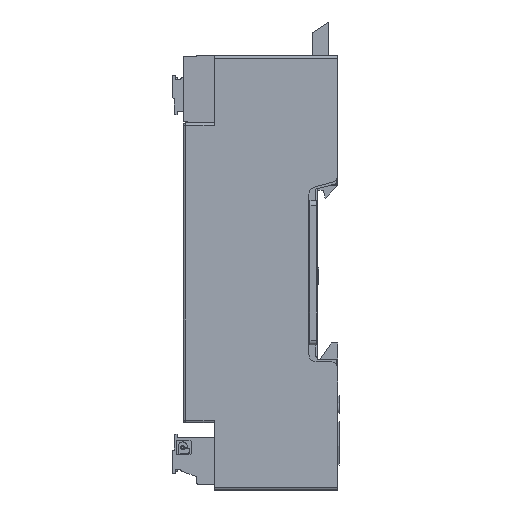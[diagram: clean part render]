
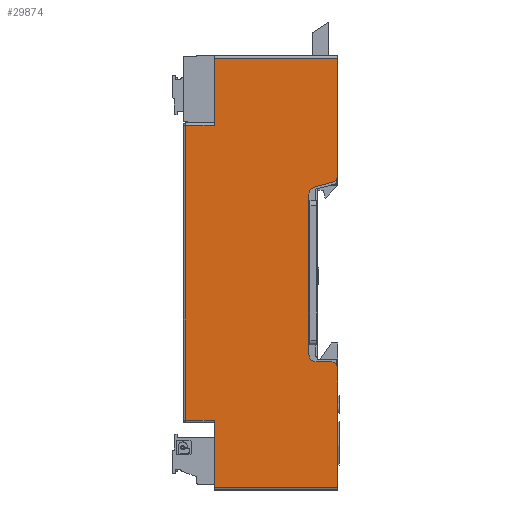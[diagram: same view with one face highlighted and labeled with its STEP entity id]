
A CAD part, left-side view. The second image highlights one B-rep face of the part: STEP entity #29874.
In plain terms, the highlighted planar face has unit normal (-1, 0, 0).
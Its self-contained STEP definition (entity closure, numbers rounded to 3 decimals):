
#12884=LINE('',#181854,#23563);
#12888=LINE('',#181866,#23567);
#12891=LINE('',#181877,#23570);
#12913=LINE('',#181938,#23592);
#12914=LINE('',#181942,#23593);
#12915=LINE('',#181944,#23594);
#12916=LINE('',#181946,#23595);
#12917=LINE('',#181948,#23596);
#12918=LINE('',#181949,#23597);
#12919=LINE('',#181951,#23598);
#12920=LINE('',#181953,#23599);
#12921=LINE('',#181955,#23600);
#23563=VECTOR('',#128653,1.);
#23567=VECTOR('',#128665,1.);
#23570=VECTOR('',#128676,1.);
#23592=VECTOR('',#128736,1.);
#23593=VECTOR('',#128741,1.);
#23594=VECTOR('',#128742,1.);
#23595=VECTOR('',#128743,1.);
#23596=VECTOR('',#128744,1.);
#23597=VECTOR('',#128745,1.);
#23598=VECTOR('',#128746,1.);
#23599=VECTOR('',#128747,1.);
#23600=VECTOR('',#128748,1.);
#29874=ADVANCED_FACE('',(#38926),#33725,.T.);
#33725=PLANE('',#108192);
#38926=FACE_OUTER_BOUND('',#45304,.T.);
#45304=EDGE_LOOP('',(#71187,#71188,#71189,#71190,#71191,#71192,#71193,#71194,
#71195,#71196,#71197,#71198,#71199,#71200,#71201,#71202));
#71187=ORIENTED_EDGE('',*,*,#96453,.F.);
#71188=ORIENTED_EDGE('',*,*,#96454,.F.);
#71189=ORIENTED_EDGE('',*,*,#96455,.F.);
#71190=ORIENTED_EDGE('',*,*,#96456,.F.);
#71191=ORIENTED_EDGE('',*,*,#96404,.T.);
#71192=ORIENTED_EDGE('',*,*,#96410,.F.);
#71193=ORIENTED_EDGE('',*,*,#96412,.T.);
#71194=ORIENTED_EDGE('',*,*,#96416,.F.);
#71195=ORIENTED_EDGE('',*,*,#96418,.T.);
#71196=ORIENTED_EDGE('',*,*,#96421,.T.);
#71197=ORIENTED_EDGE('',*,*,#96425,.T.);
#71198=ORIENTED_EDGE('',*,*,#96457,.F.);
#71199=ORIENTED_EDGE('',*,*,#96458,.F.);
#71200=ORIENTED_EDGE('',*,*,#96459,.F.);
#71201=ORIENTED_EDGE('',*,*,#96460,.F.);
#71202=ORIENTED_EDGE('',*,*,#96451,.F.);
#82768=VERTEX_POINT('',#181842);
#82769=VERTEX_POINT('',#181843);
#82773=VERTEX_POINT('',#181853);
#82775=VERTEX_POINT('',#181858);
#82777=VERTEX_POINT('',#181865);
#82779=VERTEX_POINT('',#181870);
#82780=VERTEX_POINT('',#181875);
#82783=VERTEX_POINT('',#181883);
#82801=VERTEX_POINT('',#181937);
#82802=VERTEX_POINT('',#181939);
#82803=VERTEX_POINT('',#181943);
#82804=VERTEX_POINT('',#181945);
#82805=VERTEX_POINT('',#181947);
#82806=VERTEX_POINT('',#181950);
#82807=VERTEX_POINT('',#181952);
#82808=VERTEX_POINT('',#181954);
#96404=EDGE_CURVE('',#82768,#82769,#102613,.T.);
#96410=EDGE_CURVE('',#82773,#82769,#12884,.T.);
#96412=EDGE_CURVE('',#82773,#82775,#102614,.T.);
#96416=EDGE_CURVE('',#82777,#82775,#12888,.T.);
#96418=EDGE_CURVE('',#82777,#82779,#102615,.T.);
#96421=EDGE_CURVE('',#82779,#82780,#12891,.T.);
#96425=EDGE_CURVE('',#82780,#82783,#102616,.T.);
#96451=EDGE_CURVE('',#82801,#82802,#12913,.T.);
#96453=EDGE_CURVE('',#82803,#82801,#12914,.T.);
#96454=EDGE_CURVE('',#82804,#82803,#12915,.T.);
#96455=EDGE_CURVE('',#82805,#82804,#12916,.T.);
#96456=EDGE_CURVE('',#82768,#82805,#12917,.T.);
#96457=EDGE_CURVE('',#82806,#82783,#12918,.T.);
#96458=EDGE_CURVE('',#82807,#82806,#12919,.T.);
#96459=EDGE_CURVE('',#82808,#82807,#12920,.T.);
#96460=EDGE_CURVE('',#82802,#82808,#12921,.T.);
#102613=CIRCLE('',#108160,1.5);
#102614=CIRCLE('',#108164,1.5);
#102615=CIRCLE('',#108168,1.5);
#102616=CIRCLE('',#108173,1.5);
#108160=AXIS2_PLACEMENT_3D('',#181841,#128643,#128644);
#108164=AXIS2_PLACEMENT_3D('',#181859,#128657,#128658);
#108168=AXIS2_PLACEMENT_3D('',#181871,#128669,#128670);
#108173=AXIS2_PLACEMENT_3D('',#181884,#128683,#128684);
#108192=AXIS2_PLACEMENT_3D('',#181956,#128749,#128750);
#128643=DIRECTION('',(-1.,0.,0.));
#128644=DIRECTION('',(0.,-1.,0.));
#128653=DIRECTION('',(0.,-1.,0.));
#128657=DIRECTION('',(1.,0.,0.));
#128658=DIRECTION('',(0.,0.,-1.));
#128665=DIRECTION('',(0.,0.,-1.));
#128669=DIRECTION('',(1.,0.,0.));
#128670=DIRECTION('',(0.,1.,0.));
#128676=DIRECTION('',(0.,-0.966,0.259));
#128683=DIRECTION('',(-1.,0.,0.));
#128684=DIRECTION('',(0.,-0.259,-0.966));
#128736=DIRECTION('',(0.,0.,1.));
#128741=DIRECTION('',(0.,1.,0.));
#128742=DIRECTION('',(0.,0.,1.));
#128743=DIRECTION('',(0.,1.,0.));
#128744=DIRECTION('',(0.,0.,-1.));
#128745=DIRECTION('',(0.,0.,-1.));
#128746=DIRECTION('',(0.,-1.,0.));
#128747=DIRECTION('',(0.,0.,1.));
#128748=DIRECTION('',(0.,-1.,0.));
#128749=DIRECTION('',(-1.,0.,0.));
#128750=DIRECTION('',(0.,0.,1.));
#181841=CARTESIAN_POINT('',(-43.85,1.5,-20.));
#181842=CARTESIAN_POINT('',(-43.85,0.,-20.));
#181843=CARTESIAN_POINT('',(-43.85,1.5,-18.5));
#181853=CARTESIAN_POINT('',(-43.85,4.5,-18.5));
#181854=CARTESIAN_POINT('',(-43.85,4.5,-18.5));
#181858=CARTESIAN_POINT('',(-43.85,6.,-17.));
#181859=CARTESIAN_POINT('',(-43.85,4.5,-17.));
#181865=CARTESIAN_POINT('',(-43.85,6.,16.409));
#181866=CARTESIAN_POINT('',(-43.85,6.,16.409));
#181870=CARTESIAN_POINT('',(-43.85,4.888,17.858));
#181871=CARTESIAN_POINT('',(-43.85,4.5,16.409));
#181875=CARTESIAN_POINT('',(-43.85,1.112,18.87));
#181877=CARTESIAN_POINT('',(-43.85,4.888,17.858));
#181883=CARTESIAN_POINT('',(-43.85,0.,20.319));
#181884=CARTESIAN_POINT('',(-43.85,1.5,20.319));
#181937=CARTESIAN_POINT('',(-43.85,31.7,-30.7));
#181938=CARTESIAN_POINT('',(-43.85,31.7,-30.7));
#181939=CARTESIAN_POINT('',(-43.85,31.7,30.7));
#181942=CARTESIAN_POINT('',(-43.85,25.7,-30.7));
#181943=CARTESIAN_POINT('',(-43.85,25.7,-30.7));
#181944=CARTESIAN_POINT('',(-43.85,25.7,-44.7));
#181945=CARTESIAN_POINT('',(-43.85,25.7,-44.7));
#181946=CARTESIAN_POINT('',(-43.85,0.,-44.7));
#181947=CARTESIAN_POINT('',(-43.85,0.,-44.7));
#181948=CARTESIAN_POINT('',(-43.85,0.,-20.));
#181949=CARTESIAN_POINT('',(-43.85,0.,44.7));
#181950=CARTESIAN_POINT('',(-43.85,0.,44.7));
#181951=CARTESIAN_POINT('',(-43.85,25.7,44.7));
#181952=CARTESIAN_POINT('',(-43.85,25.7,44.7));
#181953=CARTESIAN_POINT('',(-43.85,25.7,30.7));
#181954=CARTESIAN_POINT('',(-43.85,25.7,30.7));
#181955=CARTESIAN_POINT('',(-43.85,31.7,30.7));
#181956=CARTESIAN_POINT('',(-43.85,0.,-43.7));
